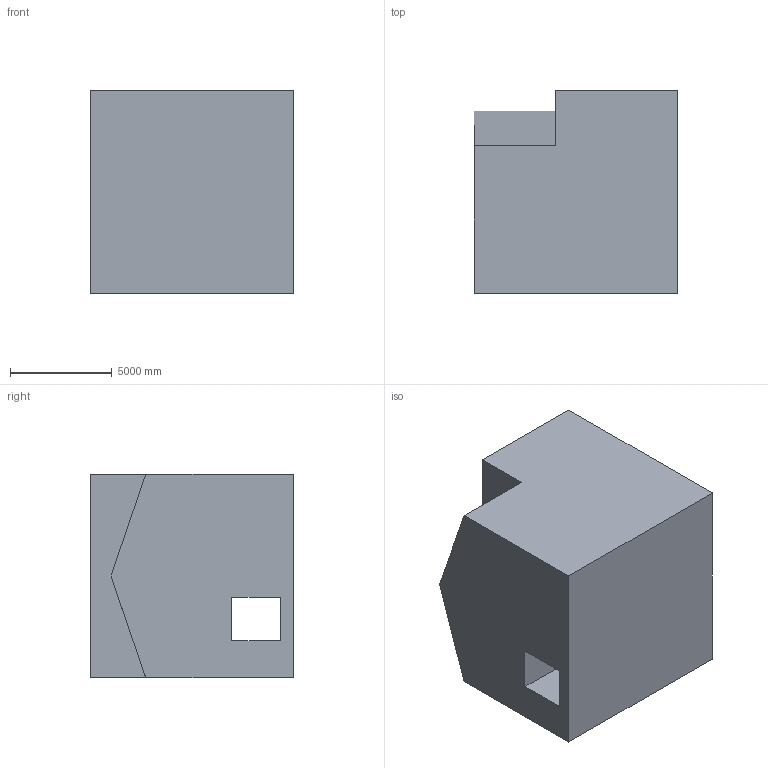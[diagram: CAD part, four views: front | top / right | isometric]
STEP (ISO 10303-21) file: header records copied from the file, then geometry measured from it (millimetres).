
FILE_DESCRIPTION (( 'STEP AP203' ), '1' );
FILE_NAME ('464.STEP', '2022-08-04T14:25:55', ( 'user' ), ( '' ), 'SwSTEP 2.0', 'SolidWorks 2021', '' );
FILE_SCHEMA (( 'CONFIG_CONTROL_DESIGN' ));
Length unit declared in the file: centimetre
Products named in the file (1): 464
Bounding box: 10000 x 10000 x 10000 mm (x, y, z)
Volume: 801179786857.1 mm3; surface area: 800614334.5 mm2
Topology: 1 solids, 1 shells, 31 faces, 81 edges, 54 vertices
Faces by surface type: plane 27, cylinder 4
Entity records: 1028 total; most frequent: CARTESIAN_POINT 167, ORIENTED_EDGE 162, DIRECTION 153, EDGE_CURVE 81, VECTOR 73, LINE 73, VERTEX_POINT 54, AXIS2_PLACEMENT_3D 40
